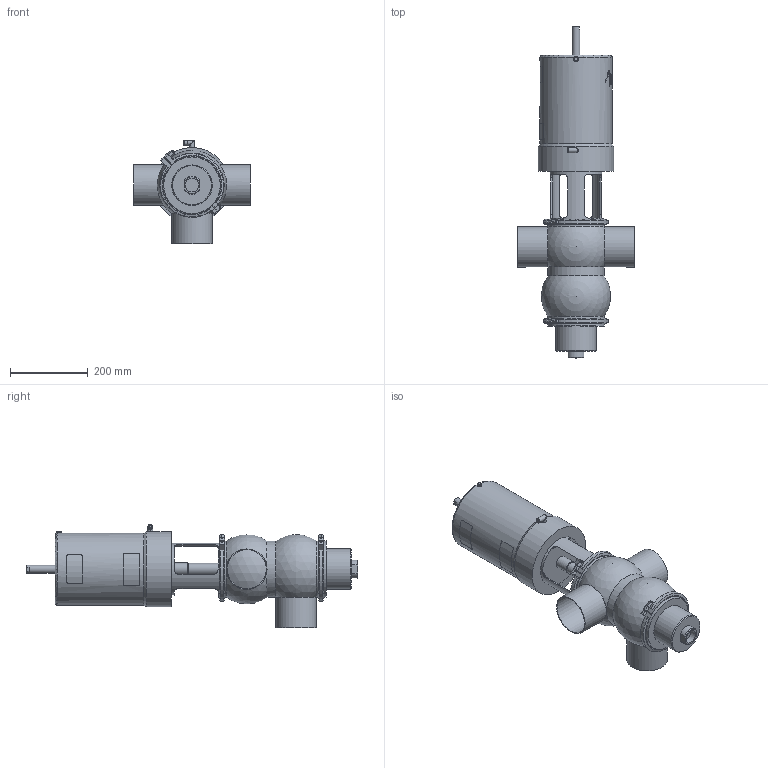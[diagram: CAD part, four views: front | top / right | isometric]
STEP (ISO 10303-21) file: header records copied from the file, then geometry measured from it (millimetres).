
FILE_DESCRIPTION (( 'STEP AP214' ), '1' );
FILE_NAME ('INNOVA S AB-90 W DIN 100_10.251.16.0001.STEP', '2024-08-20T12:10:21', ( '' ), ( '' ), 'SwSTEP 2.0', 'SolidWorks 2023', '' );
FILE_SCHEMA (( 'AUTOMOTIVE_DESIGN' ));
Length unit declared in the file: millimetre
Products named in the file (6): INNOVA S AB-90 W DIN 100_10.251.16.0001; 10.251.15.0003_DIN 100; 10.251.15.0001_DN 100; 10.251.15.0002_DN 100; 10.250.15.0002_Type S T3; 10.240.15.0001_DN 100
Assembly tree (6 placements, depth 2):
  INNOVA S AB-90 W DIN 100_10.251.16.0001
    10.251.15.0001_DN 100
    10.250.15.0002_Type S T3
    10.251.15.0003_DIN 100
    10.240.15.0001_DN 100  x2
    10.251.15.0002_DN 100
Bounding box: 300 x 852 x 265 mm (x, y, z)
Volume: 14983056.5 mm3; surface area: 802002 mm2
Topology: 6 solids, 6 shells, 424 faces, 1113 edges, 724 vertices
Faces by surface type: plane 201, cylinder 109, bspline 80, cone 27, sphere 6, torus 1
Full cylindrical faces by diameter (mm): 4.2 x2, 5 x1, 6 x1, 6.15 x1, 8 x4, 8.5 x1, 10.5 x2, 12.5 x6, 20 x1, 30.5 x1, 32 x1, 35 x1, 100 x3, 104 x4, 133 x1, 133.1 x1, 144.5 x3, 145 x1, 156.5 x3, 157 x1, 185 x1, 193 x1
Entity records: 22291 total; most frequent: CARTESIAN_POINT 12123, ORIENTED_EDGE 1736, DIRECTION 1355, EDGE_CURVE 868, VERTEX_POINT 594, AXIS2_PLACEMENT_3D 522, EDGE_LOOP 454, FACE_OUTER_BOUND 406
